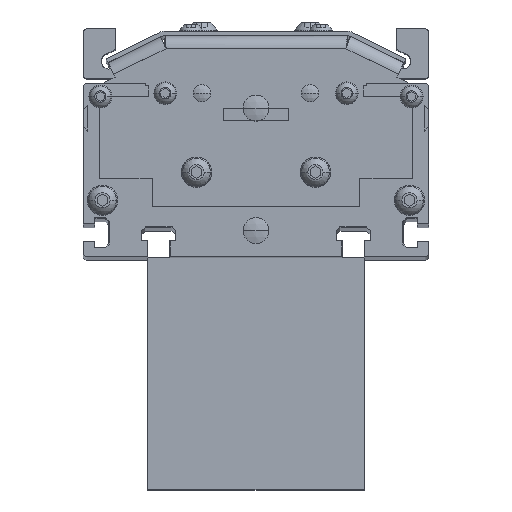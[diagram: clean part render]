
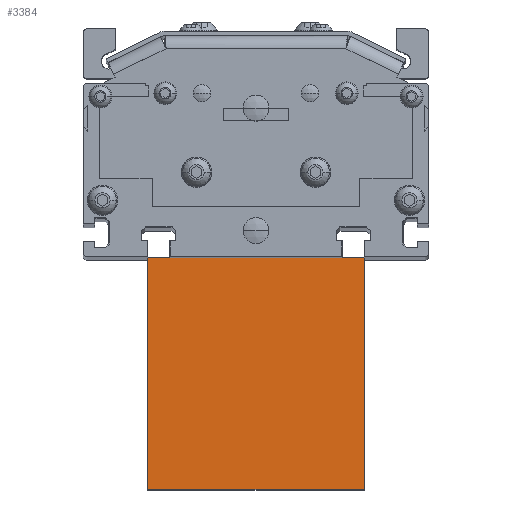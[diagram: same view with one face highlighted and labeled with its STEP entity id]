
A CAD part, top view. The second image highlights one B-rep face of the part: STEP entity #3384.
In plain terms, the highlighted planar face has unit normal (0, 0, 1).
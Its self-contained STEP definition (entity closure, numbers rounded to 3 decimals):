
#738 = DIRECTION ( 'NONE',  ( -1., 0., 0. ) ) ;
#1727 = ORIENTED_EDGE ( 'NONE', *, *, #3295, .T. ) ;
#1988 = EDGE_LOOP ( 'NONE', ( #1727, #10296, #21470, #23953 ) ) ;
#3295 = EDGE_CURVE ( 'NONE', #9965, #15064, #22654, .T. ) ;
#3384 = ADVANCED_FACE ( 'NONE', ( #14814 ), #19259, .F. ) ;
#4146 = LINE ( 'NONE', #16600, #5252 ) ;
#4346 = DIRECTION ( 'NONE',  ( 0., 0., -1. ) ) ;
#4897 = VECTOR ( 'NONE', #738, 1000. ) ;
#5006 = CARTESIAN_POINT ( 'NONE',  ( -50., 0., 90. ) ) ;
#5252 = VECTOR ( 'NONE', #20947, 1000. ) ;
#6122 = CARTESIAN_POINT ( 'NONE',  ( 50., 0., 90. ) ) ;
#7366 = LINE ( 'NONE', #17751, #4897 ) ;
#8315 = CARTESIAN_POINT ( 'NONE',  ( -50., 0., 90. ) ) ;
#9675 = CARTESIAN_POINT ( 'NONE',  ( -50., 107., 90. ) ) ;
#9965 = VERTEX_POINT ( 'NONE', #9675 ) ;
#10296 = ORIENTED_EDGE ( 'NONE', *, *, #12829, .F. ) ;
#10771 = CARTESIAN_POINT ( 'NONE',  ( 50., 107., 90. ) ) ;
#11354 = VERTEX_POINT ( 'NONE', #6122 ) ;
#12829 = EDGE_CURVE ( 'NONE', #11354, #15064, #18514, .T. ) ;
#14814 = FACE_OUTER_BOUND ( 'NONE', #1988, .T. ) ;
#14945 = CARTESIAN_POINT ( 'NONE',  ( 50., 0., 90. ) ) ;
#15064 = VERTEX_POINT ( 'NONE', #5006 ) ;
#16600 = CARTESIAN_POINT ( 'NONE',  ( 50., 0., 90. ) ) ;
#16994 = AXIS2_PLACEMENT_3D ( 'NONE', #14945, #4346, #25235 ) ;
#17751 = CARTESIAN_POINT ( 'NONE',  ( 50., 107., 90. ) ) ;
#18514 = LINE ( 'NONE', #25307, #20546 ) ;
#19259 = PLANE ( 'NONE',  #16994 ) ;
#20546 = VECTOR ( 'NONE', #26785, 1000. ) ;
#20579 = VERTEX_POINT ( 'NONE', #10771 ) ;
#20947 = DIRECTION ( 'NONE',  ( 0., -1., 0. ) ) ;
#21317 = VECTOR ( 'NONE', #22782, 1000. ) ;
#21470 = ORIENTED_EDGE ( 'NONE', *, *, #23980, .F. ) ;
#22654 = LINE ( 'NONE', #8315, #21317 ) ;
#22782 = DIRECTION ( 'NONE',  ( 0., -1., 0. ) ) ;
#23953 = ORIENTED_EDGE ( 'NONE', *, *, #26777, .T. ) ;
#23980 = EDGE_CURVE ( 'NONE', #20579, #11354, #4146, .T. ) ;
#25235 = DIRECTION ( 'NONE',  ( 0., 1., 0. ) ) ;
#25307 = CARTESIAN_POINT ( 'NONE',  ( 50., 0., 90. ) ) ;
#26777 = EDGE_CURVE ( 'NONE', #20579, #9965, #7366, .T. ) ;
#26785 = DIRECTION ( 'NONE',  ( -1., 0., 0. ) ) ;
